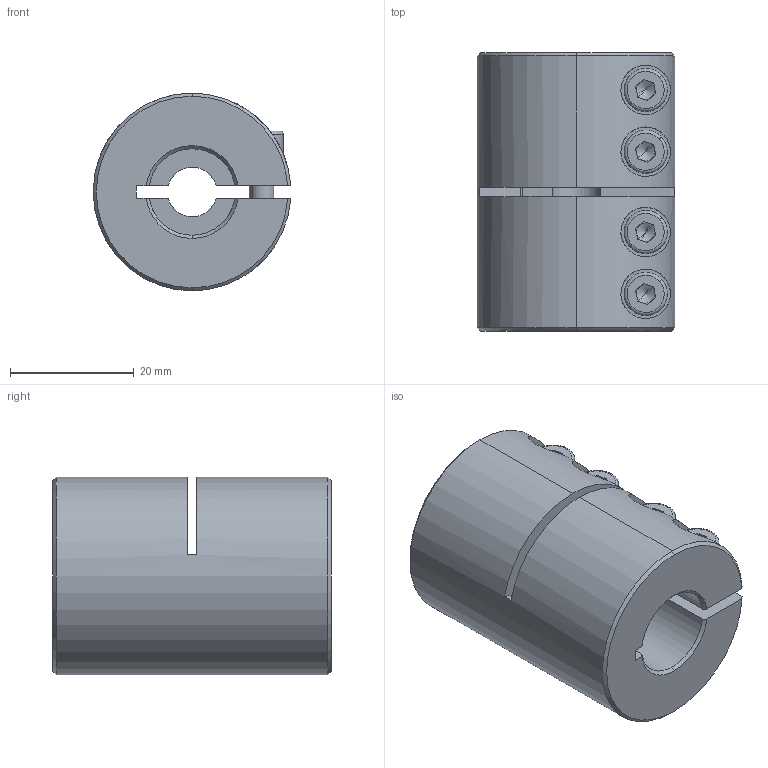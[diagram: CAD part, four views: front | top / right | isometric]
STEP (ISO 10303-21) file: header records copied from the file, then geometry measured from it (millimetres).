
FILE_DESCRIPTION (( 'STEP AP214' ), '1' );
FILE_NAME ('LL-B-D32L45-8-14½¨Ä£.STEP', '2022-07-21T07:02:06', ( '' ), ( '' ), 'SwSTEP 2.0', 'SolidWorks 2022', '' );
FILE_SCHEMA (( 'AUTOMOTIVE_DESIGN' ));
Length unit declared in the file: millimetre
Products named in the file (1): LL-B-D32L45-8-14膘耀
Bounding box: 31.97 x 45 x 32 mm (x, y, z)
Volume: 29307.2 mm3; surface area: 10855.5 mm2
Topology: 1 solids, 1 shells, 193 faces, 492 edges, 309 vertices
Faces by surface type: plane 88, cylinder 77, cone 20, torus 8
Entity records: 6357 total; most frequent: CARTESIAN_POINT 1583, DIRECTION 1037, ORIENTED_EDGE 968, EDGE_CURVE 484, AXIS2_PLACEMENT_3D 403, VERTEX_POINT 309, VECTOR 231, LINE 231
